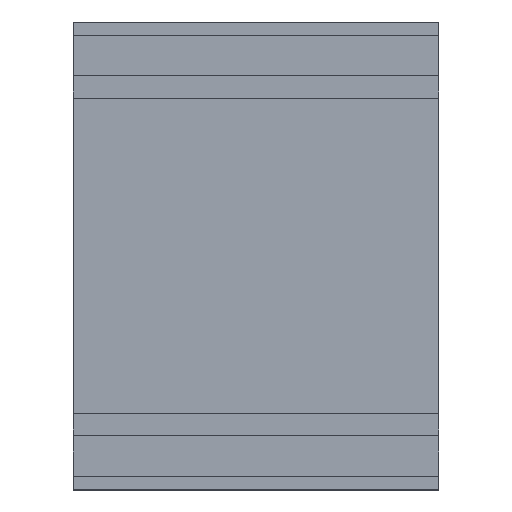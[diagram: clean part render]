
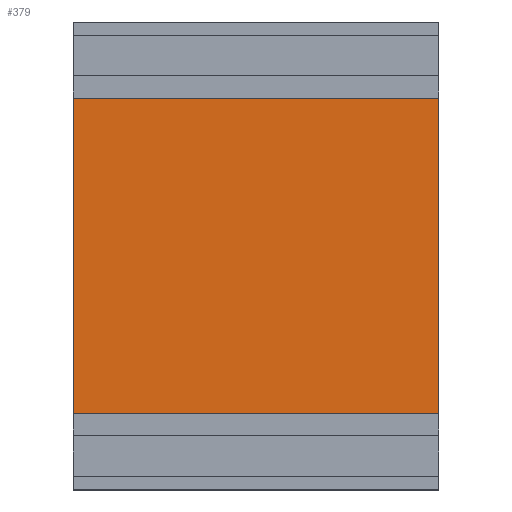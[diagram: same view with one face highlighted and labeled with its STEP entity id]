
A CAD part, top view. The second image highlights one B-rep face of the part: STEP entity #379.
In plain terms, the highlighted planar face has unit normal (0, 0, 1).
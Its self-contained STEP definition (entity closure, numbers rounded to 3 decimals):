
#23=FACE_OUTER_BOUND('',#43,.T.);
#43=EDGE_LOOP('',(#259,#260,#261,#262));
#63=LINE('',#543,#113);
#67=LINE('',#552,#117);
#69=LINE('',#555,#119);
#70=LINE('',#556,#120);
#113=VECTOR('',#441,10.);
#117=VECTOR('',#447,10.);
#119=VECTOR('',#451,10.);
#120=VECTOR('',#452,10.);
#163=VERTEX_POINT('',#540);
#164=VERTEX_POINT('',#542);
#167=VERTEX_POINT('',#549);
#168=VERTEX_POINT('',#551);
#199=EDGE_CURVE('',#164,#163,#63,.T.);
#203=EDGE_CURVE('',#168,#167,#67,.T.);
#205=EDGE_CURVE('',#167,#164,#69,.T.);
#206=EDGE_CURVE('',#163,#168,#70,.T.);
#259=ORIENTED_EDGE('',*,*,#203,.T.);
#260=ORIENTED_EDGE('',*,*,#205,.T.);
#261=ORIENTED_EDGE('',*,*,#199,.T.);
#262=ORIENTED_EDGE('',*,*,#206,.T.);
#361=PLANE('',#413);
#379=ADVANCED_FACE('',(#23),#361,.T.);
#413=AXIS2_PLACEMENT_3D('',#554,#449,#450);
#441=DIRECTION('',(-1.,0.,0.));
#447=DIRECTION('',(1.,0.,0.));
#449=DIRECTION('center_axis',(0.,0.,1.));
#450=DIRECTION('ref_axis',(1.,0.,0.));
#451=DIRECTION('',(0.,1.,0.));
#452=DIRECTION('',(0.,-1.,0.));
#540=CARTESIAN_POINT('',(-0.2,23.5,1.));
#542=CARTESIAN_POINT('',(25.3,23.5,1.));
#543=CARTESIAN_POINT('',(-0.2,23.5,1.));
#549=CARTESIAN_POINT('',(25.3,1.5,1.));
#551=CARTESIAN_POINT('',(-0.2,1.5,1.));
#552=CARTESIAN_POINT('',(-0.2,1.5,1.));
#554=CARTESIAN_POINT('Origin',(12.55,12.5,1.));
#555=CARTESIAN_POINT('',(25.3,-0.05,1.));
#556=CARTESIAN_POINT('',(-0.2,25.05,1.));
